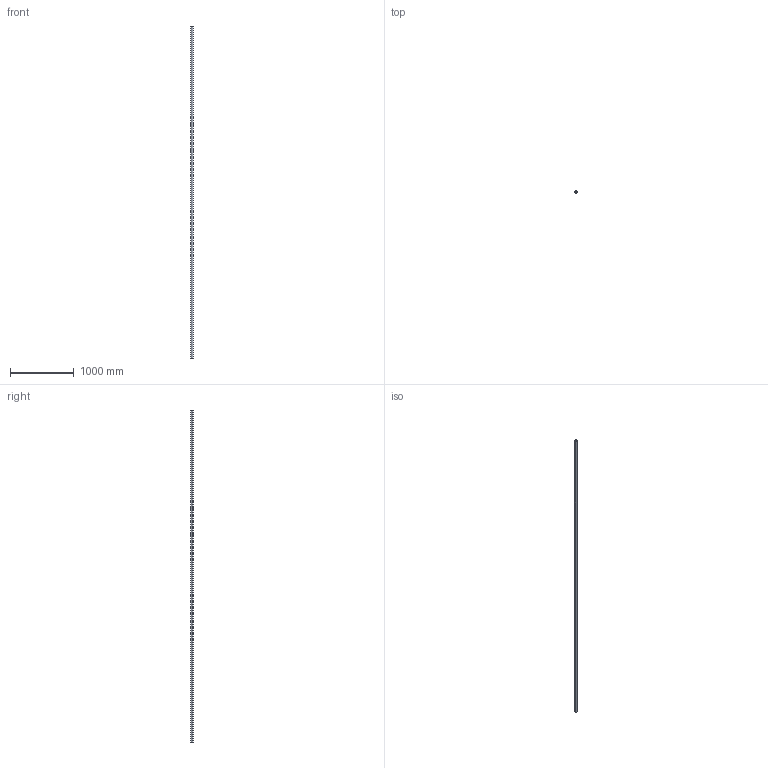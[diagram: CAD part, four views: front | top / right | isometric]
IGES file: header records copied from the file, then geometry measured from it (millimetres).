
Start section: SolidWorks IGES file using analytic representation for surfaces
Global section: file name: C:\Users\IanO\Desktop\L1771_v2\L1771.40_v2\L1771.40_v2_20230705_IGES\L1771.40-5200.igs; native system: SolidWorks 2019; preprocessor: SolidWorks 2019; author: IanO; date: 230705.163007; units: millimetre
Bounding box: 40 x 40 x 5200 mm (x, y, z)
Surface area: 1112148.9 mm2 (no closed solid volume)
Topology: 0 solids, 0 shells, 6 faces, 272 edges, 272 vertices
Faces by surface type: revolution 4, bspline 2
